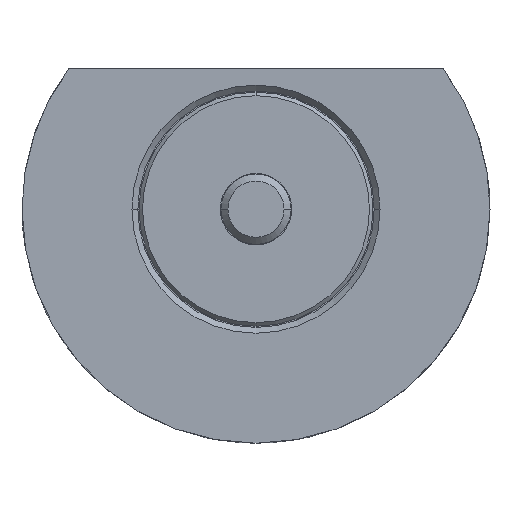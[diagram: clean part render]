
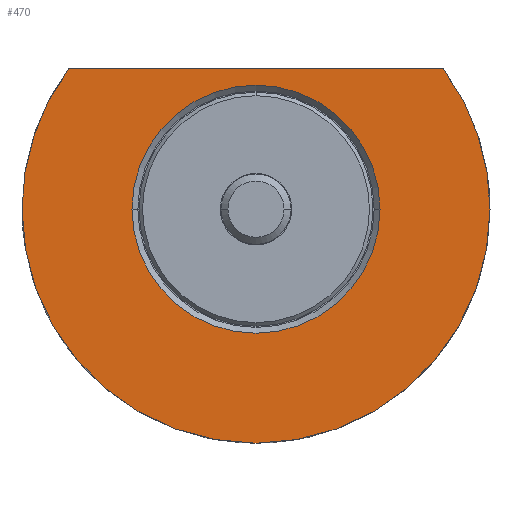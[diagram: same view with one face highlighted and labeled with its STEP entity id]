
A CAD part, front view. The second image highlights one B-rep face of the part: STEP entity #470.
In plain terms, the highlighted planar face has unit normal (0, -1, 0).
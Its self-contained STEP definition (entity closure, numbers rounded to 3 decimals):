
#146 = VERTEX_POINT ( 'NONE', #2285 ) ;
#168 = VERTEX_POINT ( 'NONE', #461 ) ;
#200 = CARTESIAN_POINT ( 'NONE',  ( 20., -10., 0. ) ) ;
#220 = AXIS2_PLACEMENT_3D ( 'NONE', #2552, #1875, #1691 ) ;
#275 = FACE_OUTER_BOUND ( 'NONE', #2283, .T. ) ;
#391 = CIRCLE ( 'NONE', #2353, 20. ) ;
#450 = DIRECTION ( 'NONE',  ( -1., 0., 0. ) ) ;
#461 = CARTESIAN_POINT ( 'NONE',  ( 10.6, -10., 0. ) ) ;
#470 = ADVANCED_FACE ( 'NONE', ( #1477, #275 ), #2076, .T. ) ;
#516 = EDGE_LOOP ( 'NONE', ( #1190, #925 ) ) ;
#583 = DIRECTION ( 'NONE',  ( -1., 0., 0. ) ) ;
#655 = CARTESIAN_POINT ( 'NONE',  ( -20., -10., 0. ) ) ;
#659 = AXIS2_PLACEMENT_3D ( 'NONE', #1262, #2326, #2522 ) ;
#782 = VERTEX_POINT ( 'NONE', #2281 ) ;
#913 = AXIS2_PLACEMENT_3D ( 'NONE', #1700, #1063, #450 ) ;
#925 = ORIENTED_EDGE ( 'NONE', *, *, #2333, .T. ) ;
#955 = EDGE_CURVE ( 'NONE', #168, #2653, #2586, .T. ) ;
#1063 = DIRECTION ( 'NONE',  ( 0., 1., 0. ) ) ;
#1069 = VERTEX_POINT ( 'NONE', #200 ) ;
#1164 = CARTESIAN_POINT ( 'NONE',  ( 0., -10., 0. ) ) ;
#1190 = ORIENTED_EDGE ( 'NONE', *, *, #955, .T. ) ;
#1217 = EDGE_CURVE ( 'NONE', #1069, #2030, #1472, .T. ) ;
#1226 = EDGE_CURVE ( 'NONE', #2030, #782, #1792, .T. ) ;
#1257 = ORIENTED_EDGE ( 'NONE', *, *, #1226, .F. ) ;
#1262 = CARTESIAN_POINT ( 'NONE',  ( 0., -10., 0. ) ) ;
#1341 = DIRECTION ( 'NONE',  ( -1., 0., 0. ) ) ;
#1422 = CIRCLE ( 'NONE', #220, 10.6 ) ;
#1472 = CIRCLE ( 'NONE', #913, 20. ) ;
#1477 = FACE_BOUND ( 'NONE', #516, .T. ) ;
#1504 = AXIS2_PLACEMENT_3D ( 'NONE', #2284, #1886, #1896 ) ;
#1509 = AXIS2_PLACEMENT_3D ( 'NONE', #1964, #2366, #1341 ) ;
#1608 = DIRECTION ( 'NONE',  ( -1., 0., 0. ) ) ;
#1691 = DIRECTION ( 'NONE',  ( -1., 0., 0. ) ) ;
#1700 = CARTESIAN_POINT ( 'NONE',  ( 0., -10., 0. ) ) ;
#1792 = CIRCLE ( 'NONE', #659, 20. ) ;
#1871 = EDGE_CURVE ( 'NONE', #146, #782, #2167, .T. ) ;
#1875 = DIRECTION ( 'NONE',  ( 0., 1., 0. ) ) ;
#1886 = DIRECTION ( 'NONE',  ( 0., -1., 0. ) ) ;
#1896 = DIRECTION ( 'NONE',  ( 1., 0., 0. ) ) ;
#1911 = CARTESIAN_POINT ( 'NONE',  ( -10.6, -10., 0. ) ) ;
#1964 = CARTESIAN_POINT ( 'NONE',  ( 0., -10., 0. ) ) ;
#1970 = ORIENTED_EDGE ( 'NONE', *, *, #1217, .F. ) ;
#2030 = VERTEX_POINT ( 'NONE', #655 ) ;
#2076 = PLANE ( 'NONE',  #1504 ) ;
#2095 = ORIENTED_EDGE ( 'NONE', *, *, #1871, .T. ) ;
#2167 = LINE ( 'NONE', #2182, #2316 ) ;
#2182 = CARTESIAN_POINT ( 'NONE',  ( -10.6, -10., 11.999 ) ) ;
#2281 = CARTESIAN_POINT ( 'NONE',  ( -16.001, -10., 11.999 ) ) ;
#2283 = EDGE_LOOP ( 'NONE', ( #2419, #2095, #1257, #1970 ) ) ;
#2284 = CARTESIAN_POINT ( 'NONE',  ( -10.6, -10., 0. ) ) ;
#2285 = CARTESIAN_POINT ( 'NONE',  ( 16.001, -10., 11.999 ) ) ;
#2316 = VECTOR ( 'NONE', #1608, 1000. ) ;
#2326 = DIRECTION ( 'NONE',  ( 0., 1., 0. ) ) ;
#2333 = EDGE_CURVE ( 'NONE', #2653, #168, #1422, .T. ) ;
#2353 = AXIS2_PLACEMENT_3D ( 'NONE', #1164, #2617, #583 ) ;
#2366 = DIRECTION ( 'NONE',  ( 0., 1., 0. ) ) ;
#2419 = ORIENTED_EDGE ( 'NONE', *, *, #2478, .F. ) ;
#2478 = EDGE_CURVE ( 'NONE', #146, #1069, #391, .T. ) ;
#2522 = DIRECTION ( 'NONE',  ( -1., 0., 0. ) ) ;
#2552 = CARTESIAN_POINT ( 'NONE',  ( 0., -10., 0. ) ) ;
#2586 = CIRCLE ( 'NONE', #1509, 10.6 ) ;
#2617 = DIRECTION ( 'NONE',  ( 0., 1., 0. ) ) ;
#2653 = VERTEX_POINT ( 'NONE', #1911 ) ;
